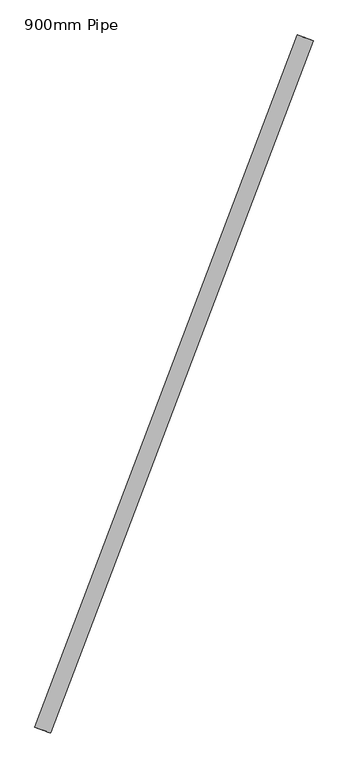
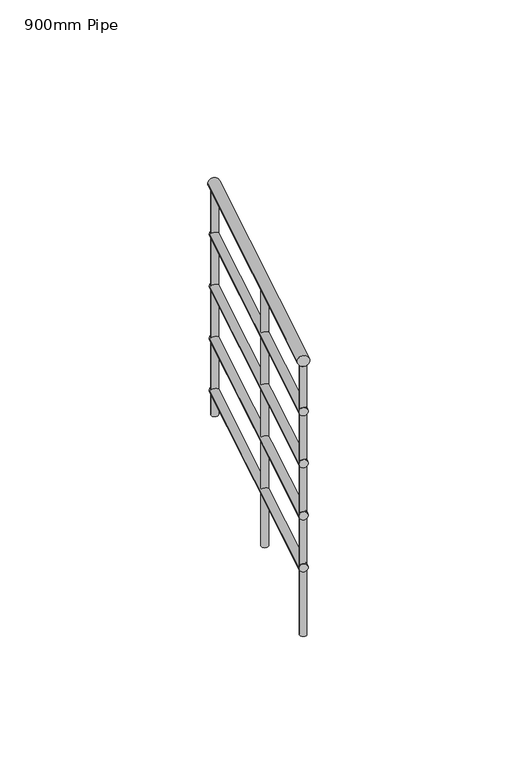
"""IFC4 building model written with IfcOpenShell, lengths in millimetres: railing geometry, 900mm Pipe."""

from ifc_helpers import new_model, si_unit, frame, origin, place, context, project, spatial, circle_curve, ellipse_curve, source, transform, mapped, element, save
from ifc_brep_helpers import plane_surface, cylinder_surface, advanced_brep


def railing_900mm_pipe_c620c1c9(model_context):
    return source(origin(), model_context, "Body", "AdvancedBrep", [
        advanced_brep(
        [(966016.6883694, -23202.1832468, 9458.386247), (966054.08024, -23216.3905695, 9458.386247), (965389.7077424, -24852.3167028, 9996.2686), (965427.0996129, -24866.5240255, 9996.2686)],
        [
            (0, 1, ellipse_curve(frame((966035.3843047, -23209.2869082, 9458.386247), z_axis=(0.35518306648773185, 0.93479676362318, 0.0), x_axis=(0.0, 0.0, -1.0)), 20.9078706, 20.0)),
            (1, 0, ellipse_curve(frame((966035.3843047, -23209.2869082, 9458.386247), z_axis=(0.35518306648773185, 0.93479676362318, 0.0), x_axis=(0.0, 0.0, -1.0)), 20.9078706, 20.0)),
            (2, 3, ellipse_curve(frame((965408.4036777, -24859.4203642, 9996.2686), z_axis=(-0.35518306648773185, -0.93479676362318, 0.0), x_axis=(0.0, 0.0, -1.0)), 20.9078706, 20.0)),
            (3, 2, ellipse_curve(frame((965408.4036777, -24859.4203642, 9996.2686), z_axis=(-0.35518306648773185, -0.93479676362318, 0.0), x_axis=(0.0, 0.0, -1.0)), 20.9078706, 20.0)),
            (1, 3),
            (2, 0),
        ],
        [
            plane_surface(frame((966035.3843047, -23209.2869082, 9479.2941176), z_axis=(0.35518306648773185, 0.93479676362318, 0.0), x_axis=(0.93479676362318, -0.35518306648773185, 0.0))),
            plane_surface(frame((965408.4036777, -24859.4203642, 10017.1764706), z_axis=(-0.35518306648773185, -0.93479676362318, 0.0), x_axis=(0.93479676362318, -0.35518306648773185, 0.0))),
            cylinder_surface(frame((966033.3137445, -23214.7363599, 9460.1625663), z_axis=(0.3397601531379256, 0.8942056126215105, -0.2914778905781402), x_axis=(0.93479676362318, -0.3551830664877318, 0.0)), 20.0),
        ],
        [
            (0, [[1, 2]]),
            (1, [[3, 4]]),
            (2, [[-2, 5, -3, 6]]),
            (2, [[-1, -6, -4, -5]]),
        ],
    ),
        advanced_brep(
        [(966021.3623533, -23203.9591622, 9263.6132147), (966049.4062562, -23214.6146542, 9263.6132147), (965394.3817262, -24854.0926182, 9801.4955676), (965422.4256291, -24864.7481102, 9801.4955676)],
        [
            (0, 1, ellipse_curve(frame((966035.3843047, -23209.2869082, 9263.6132147), z_axis=(0.35518306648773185, 0.93479676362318, 0.0), x_axis=(0.0, 0.0, -1.0)), 15.680903, 15.0)),
            (1, 0, ellipse_curve(frame((966035.3843047, -23209.2869082, 9263.6132147), z_axis=(0.35518306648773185, 0.93479676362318, 0.0), x_axis=(0.0, 0.0, -1.0)), 15.680903, 15.0)),
            (2, 3, ellipse_curve(frame((965408.4036777, -24859.4203642, 9801.4955676), z_axis=(-0.35518306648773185, -0.93479676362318, 0.0), x_axis=(0.0, 0.0, -1.0)), 15.680903, 15.0)),
            (3, 2, ellipse_curve(frame((965408.4036777, -24859.4203642, 9801.4955676), z_axis=(-0.35518306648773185, -0.93479676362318, 0.0), x_axis=(0.0, 0.0, -1.0)), 15.680903, 15.0)),
            (0, 2),
            (3, 1),
        ],
        [
            plane_surface(frame((966035.3843047, -23209.2869082, 9279.2941176), z_axis=(0.35518306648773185, 0.93479676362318, 0.0), x_axis=(0.93479676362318, -0.35518306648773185, 0.0))),
            plane_surface(frame((965408.4036777, -24859.4203642, 9817.1764706), z_axis=(-0.35518306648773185, -0.93479676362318, 0.0), x_axis=(0.93479676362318, -0.35518306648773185, 0.0))),
            cylinder_surface(frame((966033.8313845, -23213.373997, 9264.9454542), z_axis=(0.3397601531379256, 0.8942056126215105, -0.2914778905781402), x_axis=(0.93479676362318, -0.3551830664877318, 0.0)), 15.0),
        ],
        [
            (0, [[1, 2]]),
            (1, [[3, 4]]),
            (2, [[-1, 5, -4, 6]]),
            (2, [[-2, -6, -3, -5]]),
        ],
    ),
        advanced_brep(
        [(966021.3623533, -23203.9591622, 9063.6132147), (966049.4062562, -23214.6146542, 9063.6132147), (965394.3817262, -24854.0926182, 9601.4955676), (965422.4256291, -24864.7481102, 9601.4955676)],
        [
            (0, 1, ellipse_curve(frame((966035.3843047, -23209.2869082, 9063.6132147), z_axis=(0.3551830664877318, 0.93479676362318, 0.0), x_axis=(0.0, 0.0, -1.0)), 15.680903, 15.0)),
            (1, 0, ellipse_curve(frame((966035.3843047, -23209.2869082, 9063.6132147), z_axis=(0.3551830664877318, 0.93479676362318, 0.0), x_axis=(0.0, 0.0, -1.0)), 15.680903, 15.0)),
            (2, 3, ellipse_curve(frame((965408.4036777, -24859.4203642, 9601.4955676), z_axis=(-0.3551830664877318, -0.93479676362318, 0.0), x_axis=(0.0, 0.0, -1.0)), 15.680903, 15.0)),
            (3, 2, ellipse_curve(frame((965408.4036777, -24859.4203642, 9601.4955676), z_axis=(-0.3551830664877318, -0.93479676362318, 0.0), x_axis=(0.0, 0.0, -1.0)), 15.680903, 15.0)),
            (0, 2),
            (3, 1),
        ],
        [
            plane_surface(frame((966035.3843047, -23209.2869082, 9079.2941176), z_axis=(0.3551830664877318, 0.93479676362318, 0.0), x_axis=(0.93479676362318, -0.3551830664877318, 0.0))),
            plane_surface(frame((965408.4036777, -24859.4203642, 9617.1764706), z_axis=(-0.3551830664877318, -0.93479676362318, 0.0), x_axis=(0.93479676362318, -0.3551830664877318, 0.0))),
            cylinder_surface(frame((966033.8313845, -23213.373997, 9064.9454542), z_axis=(0.3397601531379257, 0.8942056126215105, -0.29147789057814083), x_axis=(0.9347967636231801, -0.35518306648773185, 0.0)), 15.0),
        ],
        [
            (0, [[1, 2]]),
            (1, [[3, 4]]),
            (2, [[-1, 5, -4, 6]]),
            (2, [[-2, -6, -3, -5]]),
        ],
    ),
        advanced_brep(
        [(966021.3623533, -23203.9591622, 8863.6132147), (966049.4062562, -23214.6146542, 8863.6132147), (965394.3817262, -24854.0926182, 9401.4955676), (965422.4256291, -24864.7481102, 9401.4955676)],
        [
            (0, 1, ellipse_curve(frame((966035.3843047, -23209.2869082, 8863.6132147), z_axis=(0.3551830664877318, 0.93479676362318, 0.0), x_axis=(0.0, 0.0, -1.0)), 15.680903, 15.0)),
            (1, 0, ellipse_curve(frame((966035.3843047, -23209.2869082, 8863.6132147), z_axis=(0.3551830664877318, 0.93479676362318, 0.0), x_axis=(0.0, 0.0, -1.0)), 15.680903, 15.0)),
            (2, 3, ellipse_curve(frame((965408.4036777, -24859.4203642, 9401.4955676), z_axis=(-0.3551830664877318, -0.93479676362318, 0.0), x_axis=(0.0, 0.0, -1.0)), 15.680903, 15.0)),
            (3, 2, ellipse_curve(frame((965408.4036777, -24859.4203642, 9401.4955676), z_axis=(-0.3551830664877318, -0.93479676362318, 0.0), x_axis=(0.0, 0.0, -1.0)), 15.680903, 15.0)),
            (0, 2),
            (3, 1),
        ],
        [
            plane_surface(frame((966035.3843047, -23209.2869082, 8879.2941176), z_axis=(0.3551830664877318, 0.93479676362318, 0.0), x_axis=(0.93479676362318, -0.3551830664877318, 0.0))),
            plane_surface(frame((965408.4036777, -24859.4203642, 9417.1764706), z_axis=(-0.3551830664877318, -0.93479676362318, 0.0), x_axis=(0.93479676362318, -0.3551830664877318, 0.0))),
            cylinder_surface(frame((966033.8313845, -23213.373997, 8864.9454542), z_axis=(0.3397601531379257, 0.8942056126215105, -0.29147789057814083), x_axis=(0.9347967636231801, -0.35518306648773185, 0.0)), 15.0),
        ],
        [
            (0, [[1, 2]]),
            (1, [[3, 4]]),
            (2, [[-1, 5, -4, 6]]),
            (2, [[-2, -6, -3, -5]]),
        ],
    ),
        advanced_brep(
        [(966021.3623533, -23203.9591622, 8663.6132147), (966049.4062562, -23214.6146542, 8663.6132147), (965394.3817262, -24854.0926182, 9201.4955676), (965422.4256291, -24864.7481102, 9201.4955676)],
        [
            (0, 1, ellipse_curve(frame((966035.3843047, -23209.2869082, 8663.6132147), z_axis=(0.3551830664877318, 0.93479676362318, 0.0), x_axis=(0.0, 0.0, -1.0)), 15.680903, 15.0)),
            (1, 0, ellipse_curve(frame((966035.3843047, -23209.2869082, 8663.6132147), z_axis=(0.3551830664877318, 0.93479676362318, 0.0), x_axis=(0.0, 0.0, -1.0)), 15.680903, 15.0)),
            (2, 3, ellipse_curve(frame((965408.4036777, -24859.4203642, 9201.4955676), z_axis=(-0.3551830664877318, -0.93479676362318, 0.0), x_axis=(0.0, 0.0, -1.0)), 15.680903, 15.0)),
            (3, 2, ellipse_curve(frame((965408.4036777, -24859.4203642, 9201.4955676), z_axis=(-0.3551830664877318, -0.93479676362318, 0.0), x_axis=(0.0, 0.0, -1.0)), 15.680903, 15.0)),
            (0, 2),
            (3, 1),
        ],
        [
            plane_surface(frame((966035.3843047, -23209.2869082, 8679.2941176), z_axis=(0.3551830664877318, 0.93479676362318, 0.0), x_axis=(0.93479676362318, -0.3551830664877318, 0.0))),
            plane_surface(frame((965408.4036777, -24859.4203642, 9217.1764706), z_axis=(-0.3551830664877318, -0.93479676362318, 0.0), x_axis=(0.93479676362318, -0.3551830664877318, 0.0))),
            cylinder_surface(frame((966033.8313845, -23213.373997, 8664.9454542), z_axis=(0.3397601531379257, 0.8942056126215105, -0.29147789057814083), x_axis=(0.9347967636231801, -0.35518306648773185, 0.0)), 15.0),
        ],
        [
            (0, [[1, 2]]),
            (1, [[3, 4]]),
            (2, [[-1, 5, -4, 6]]),
            (2, [[-2, -6, -3, -5]]),
        ],
    ),
        advanced_brep(
        [(965691.8861978, -24148.5234601, 9742.1874779), (965668.5162787, -24139.6438835, 9742.1874779), (965668.5162787, -24139.6438835, 8758.5882353), (965691.8861978, -24148.5234601, 8758.5882353)],
        [
            (0, 1, ellipse_curve(frame((965680.2012382, -24144.0836718, 9742.1874779), z_axis=(-0.10352801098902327, -0.2724725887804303, -0.9565775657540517), x_axis=(-0.3397601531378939, -0.8942056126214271, 0.29147789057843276)), 13.0674191, 12.5)),
            (1, 2),
            (2, 3, circle_curve(frame((965680.2012382, -24144.0836718, 8758.5882353), z_axis=(0.0, 0.0, 1.0), x_axis=(-0.93479676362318, 0.3551830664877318, 0.0)), 12.5)),
            (3, 0),
            (3, 2, circle_curve(frame((965680.2012382, -24144.0836718, 8758.5882353), z_axis=(0.0, 0.0, 1.0), x_axis=(-0.93479676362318, 0.3551830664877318, 0.0)), 12.5)),
            (1, 0, ellipse_curve(frame((965680.2012382, -24144.0836718, 9742.1874779), z_axis=(-0.10352801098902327, -0.2724725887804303, -0.9565775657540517), x_axis=(-0.3397601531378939, -0.8942056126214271, 0.29147789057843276)), 13.0674191, 12.5)),
        ],
        [
            cylinder_surface(frame((965680.2012382, -24144.0836718, 8658.5882353), z_axis=(0.0, 0.0, 1.0), x_axis=(-0.93479676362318, 0.3551830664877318, 0.0)), 12.5),
            plane_surface(frame((965647.9517425, -24158.5740142, 9749.8052054), z_axis=(0.10352801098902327, 0.2724725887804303, 0.9565775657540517), x_axis=(0.93479676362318, -0.3551830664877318, 0.0))),
            plane_surface(frame((965665.7108958, -24111.834176, 8758.5882353), z_axis=(0.0, 0.0, -1.0), x_axis=(0.93479676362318, -0.3551830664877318, 0.0))),
        ],
        [
            (0, [[1, 2, 3, 4]]),
            (0, [[5, -2, 6, -4]]),
            (1, [[-6, -1]]),
            (2, [[-5, -3]]),
        ],
    ),
        advanced_brep(
        [(965424.5284255, -24852.175193, 9971.5518655), (965401.1585064, -24843.2956163, 9971.5518655), (965401.1585064, -24843.2956163, 8937.8823529), (965424.5284255, -24852.175193, 8937.8823529)],
        [
            (0, 1, ellipse_curve(frame((965412.843466, -24847.7354046, 9971.5518655), z_axis=(-0.10352801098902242, -0.27247258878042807, -0.9565775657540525), x_axis=(-0.33976015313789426, -0.894205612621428, 0.2914778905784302)), 13.0674191, 12.5)),
            (1, 2),
            (2, 3, circle_curve(frame((965412.843466, -24847.7354046, 8937.8823529), z_axis=(0.0, 0.0, 1.0), x_axis=(-0.93479676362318, 0.3551830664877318, 0.0)), 12.5)),
            (3, 0),
            (3, 2, circle_curve(frame((965412.843466, -24847.7354046, 8937.8823529), z_axis=(0.0, 0.0, 1.0), x_axis=(-0.93479676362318, 0.3551830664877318, 0.0)), 12.5)),
            (1, 0, ellipse_curve(frame((965412.843466, -24847.7354046, 9971.5518655), z_axis=(-0.10352801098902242, -0.27247258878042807, -0.9565775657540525), x_axis=(-0.33976015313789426, -0.894205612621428, 0.2914778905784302)), 13.0674191, 12.5)),
        ],
        [
            cylinder_surface(frame((965412.843466, -24847.7354046, 8837.8823529), z_axis=(0.0, 0.0, 1.0), x_axis=(-0.93479676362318, 0.3551830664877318, 0.0)), 12.5),
            plane_surface(frame((965380.5939702, -24862.2257471, 9979.1695931), z_axis=(0.10352801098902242, 0.27247258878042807, 0.9565775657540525), x_axis=(0.93479676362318, -0.3551830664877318, 0.0))),
            plane_surface(frame((965398.3531236, -24815.4859089, 8937.8823529), z_axis=(0.0, 0.0, -1.0), x_axis=(0.93479676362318, -0.3551830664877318, 0.0))),
        ],
        [
            (0, [[1, 2, 3, 4]]),
            (0, [[5, -2, 6, -4]]),
            (1, [[-6, -1]]),
            (2, [[-5, -3]]),
        ],
    ),
        advanced_brep(
        [(966042.6294759, -23225.411656, 9441.2872401), (966019.2595568, -23216.5320794, 9441.2872401), (966019.2595568, -23216.5320794, 8579.2941176), (966042.6294759, -23225.411656, 8579.2941176)],
        [
            (0, 1, ellipse_curve(frame((966030.9445164, -23220.9718677, 9441.2872401), z_axis=(-0.10352801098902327, -0.2724725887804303, -0.9565775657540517), x_axis=(-0.3397601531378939, -0.8942056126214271, 0.29147789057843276)), 13.0674191, 12.5)),
            (1, 2),
            (2, 3, circle_curve(frame((966030.9445164, -23220.9718677, 8579.2941176), z_axis=(0.0, 0.0, 1.0), x_axis=(-0.93479676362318, 0.3551830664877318, 0.0)), 12.5)),
            (3, 0),
            (3, 2, circle_curve(frame((966030.9445164, -23220.9718677, 8579.2941176), z_axis=(0.0, 0.0, 1.0), x_axis=(-0.93479676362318, 0.3551830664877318, 0.0)), 12.5)),
            (1, 0, ellipse_curve(frame((966030.9445164, -23220.9718677, 9441.2872401), z_axis=(-0.10352801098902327, -0.2724725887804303, -0.9565775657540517), x_axis=(-0.3397601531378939, -0.8942056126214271, 0.29147789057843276)), 13.0674191, 12.5)),
        ],
        [
            cylinder_surface(frame((966030.9445164, -23220.9718677, 8479.2941176), z_axis=(0.0, 0.0, 1.0), x_axis=(-0.93479676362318, 0.3551830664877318, 0.0)), 12.5),
            plane_surface(frame((965998.6950206, -23235.4622101, 9448.9049677), z_axis=(0.10352801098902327, 0.2724725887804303, 0.9565775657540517), x_axis=(0.93479676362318, -0.3551830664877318, 0.0))),
            plane_surface(frame((966016.4541739, -23188.722372, 8579.2941176), z_axis=(0.0, 0.0, -1.0), x_axis=(0.93479676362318, -0.3551830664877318, 0.0))),
        ],
        [
            (0, [[1, 2, 3, 4]]),
            (0, [[5, -2, 6, -4]]),
            (1, [[-6, -1]]),
            (2, [[-5, -3]]),
        ],
    ),
    ])


if __name__ == "__main__":
    model = new_model("IFC4")
    model_context = context("Model", 3, world=origin())
    ifc_project = project(units=[si_unit("LENGTHUNIT", "METRE", prefix="MILLI")], contexts=[model_context])
    site = spatial("IfcSite", under=ifc_project)
    building = spatial("IfcBuilding", under=site)
    placement = place(None, origin())
    railing_900mm_pipe_shape = railing_900mm_pipe_c620c1c9(model_context)
    element("IfcRailing", 1, ObjectType="900mm Pipe", at=placement, inside=building, context=model_context, shape_type="MappedRepresentation", body=[
        mapped(railing_900mm_pipe_shape, transform((0.0, 0.0, 0.0), x_axis=(1.0, 0.0, 0.0), y_axis=(0.0, 1.0, 0.0), z_axis=(0.0, 0.0, 1.0))),
    ])
    save(model, "model.ifc")
